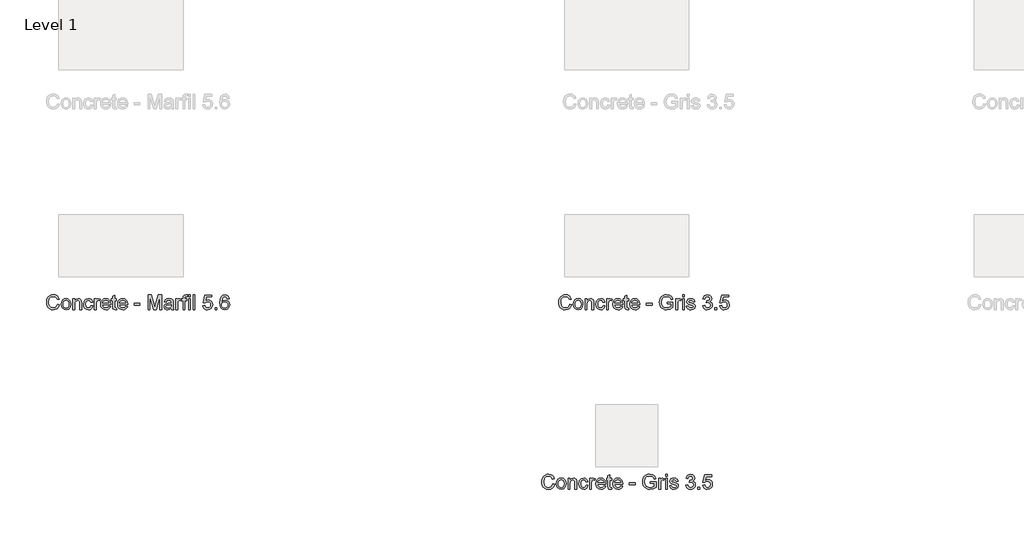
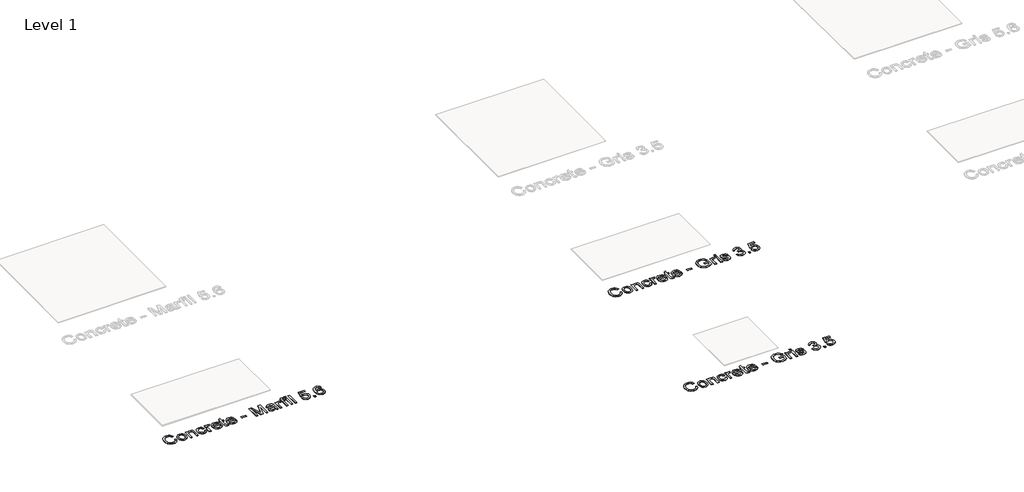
# One storey, part 43 of 80: 3 proxies.
"""IFC4 building model written with IfcOpenShell, lengths in millimetres."""

from ifc_helpers import new_model, si_unit, origin, origin_with_axes, place, context, project, spatial, polyline, outline, extrude, element, save

model = new_model("IFC4")

# Units and contexts
model_context = context("Model", 3, world=origin())
ifc_project = project(units=[si_unit("LENGTHUNIT", "METRE", prefix="MILLI")], contexts=[model_context])

# Site, building, storey
site = spatial("IfcSite", under=ifc_project)
building = spatial("IfcBuilding", under=site)
storey = spatial("IfcBuildingStorey", under=building, Name="Level 1", Elevation=0.0)

# Proxies
placement = place(None, origin())
element("IfcBuildingElementProxy", 1, Name="24\" Arial", ObjectType="24\" Arial", at=placement, inside=storey, context=model_context, shape_type="SweptSolid", body=[
    extrude(outline(polyline([(-23094.8409785, 7132.3794502), (-23080.0717477, 7128.5717579), (-23086.8866516, 7111.3614213), (-23097.5813631, 7098.788104), (-23111.6294401, 7091.0969982), (-23128.5044401, 7088.5332963), (-23145.6354497, 7090.4732002), (-23159.240017, 7096.2929117), (-23169.6679016, 7105.7905079), (-23177.2688631, 7118.7640655), (-23181.9094881, 7134.0164694), (-23183.4563631, 7150.350604), (-23181.7075651, 7167.5789694), (-23176.4611708, 7182.4563732), (-23167.9912189, 7194.5104598), (-23156.5717477, 7203.2688732), (-23143.0284785, 7208.6018059), (-23128.1871324, 7210.3794502), (-23111.9936227, 7208.0789694), (-23098.6054016, 7201.1775271), (-23088.4407381, 7190.100604), (-23081.9179016, 7175.2736809), (-23096.6871324, 7171.7544502), (-23101.8073247, 7182.5248829), (-23108.802517, 7189.913104), (-23117.7592477, 7194.1859405), (-23128.7640554, 7195.6102194), (-23141.4491516, 7194.0308925), (-23151.8698247, 7189.2929117), (-23159.7772766, 7181.8938732), (-23164.9227093, 7172.3313732), (-23168.6871324, 7150.3794502), (-23164.2304016, 7124.9371425), (-23158.5332862, 7115.4359405), (-23150.3554016, 7108.6823348), (-23129.9755939, 7103.3025271), (-23117.6474689, 7105.1342579), (-23107.3746324, 7110.6294502), (-23099.6186227, 7119.7304117), (-23094.8409785, 7132.3794502)])), origin_with_axes(), (0.0, 0.0, 1.0), 2.0),
    extrude(outline(polyline([(-23065.302517, 7133.7640655), (-23062.1078054, 7154.6847386), (-23052.5236708, 7169.3890655), (-23040.6823247, 7176.5933925), (-23026.5044401, 7178.9948348), (-23010.9888151, 7176.0705559), (-22998.5957862, 7167.2977194), (-22990.4719881, 7153.3686329), (-22987.7640554, 7134.975604), (-22992.552517, 7108.6967579), (-23006.4996324, 7093.8265655), (-23026.5044401, 7088.5332963), (-23042.2075651, 7091.4467579), (-23054.5861708, 7100.1871425), (-23062.6234304, 7114.4082963), (-23065.302517, 7133.7640655)]), holes=[polyline([(-23050.5332862, 7133.7929117), (-23048.8241516, 7120.4263252), (-23043.6967477, 7110.9034886), (-23035.9804016, 7105.2027675), (-23026.5044401, 7103.3025271), (-23017.0717477, 7105.2135848), (-23009.3698247, 7110.9467579), (-23004.2424208, 7120.5957963), (-23002.5332862, 7134.2544502), (-23004.2532381, 7147.2316136), (-23009.4130939, 7156.6246425), (-23017.1258343, 7162.3253636), (-23026.5044401, 7164.225604), (-23035.9804016, 7162.3325752), (-23043.6967477, 7156.6534886), (-23048.8241516, 7147.1522867), (-23050.5332862, 7133.7929117)])]), origin_with_axes(), (0.0, 0.0, 1.0), 2.0),
    extrude(outline(polyline([(-22971.1486708, 7090.3794502), (-22971.1486708, 7177.1486809), (-22956.3794401, 7177.1486809), (-22956.3794401, 7165.0332963), (-22945.0861708, 7175.5044502), (-22929.6679016, 7178.9948348), (-22915.7207862, 7176.1823348), (-22906.2015554, 7168.7977194), (-22901.7736708, 7157.9371425), (-22900.9948247, 7143.6582963), (-22900.9948247, 7090.3794502), (-22915.7640554, 7090.3794502), (-22915.7640554, 7141.6679117), (-22917.4659785, 7154.7352194), (-22923.4804016, 7161.6438732), (-22933.6198247, 7164.225604), (-22949.6438631, 7158.4275271), (-22954.6955458, 7150.0260848), (-22956.3794401, 7136.4179117), (-22956.3794401, 7090.3794502), (-22971.1486708, 7090.3794502)])), origin_with_axes(), (0.0, 0.0, 1.0), 2.0),
    extrude(outline(polyline([(-22825.302517, 7121.7640655), (-22810.5332862, 7119.9179117), (-22814.6510747, 7106.7820944), (-22822.3890554, 7096.8554117), (-22833.0188631, 7090.6138252), (-22845.8121324, 7088.5332963), (-22861.5224689, 7091.4359405), (-22873.8073247, 7100.1438732), (-22881.7364112, 7114.2748829), (-22884.3794401, 7133.4467579), (-22879.865017, 7157.9804117), (-22874.1679016, 7167.178729), (-22866.1054016, 7173.7448348), (-22846.0140554, 7178.9948348), (-22833.5344881, 7177.1919502), (-22823.5573247, 7171.7832963), (-22816.3998727, 7163.0573348), (-22812.3794401, 7151.3025271), (-22827.1486708, 7149.4563732), (-22833.9996324, 7160.5188732), (-22845.8986708, 7164.225604), (-22855.443142, 7162.4010848), (-22863.0188631, 7156.9275271), (-22867.9623727, 7147.5092579), (-22869.6102093, 7133.850604), (-22867.9984304, 7120.0080559), (-22863.1630939, 7110.5573348), (-22855.724392, 7105.116229), (-22846.302517, 7103.3025271), (-22832.3842477, 7107.8313732), (-22825.302517, 7121.7640655)])), origin_with_axes(), (0.0, 0.0, 1.0), 2.0),
    extrude(outline(polyline([(-22797.6102093, 7090.3794502), (-22797.6102093, 7177.1486809), (-22784.6871324, 7177.1486809), (-22784.6871324, 7164.3121425), (-22775.5140554, 7176.1390655), (-22766.2832862, 7178.9948348), (-22751.4563631, 7174.4371425), (-22756.3890554, 7161.1967579), (-22766.7736708, 7164.225604), (-22775.1246324, 7161.3121425), (-22780.4467477, 7153.2352194), (-22782.8409785, 7135.9852194), (-22782.8409785, 7090.3794502), (-22797.6102093, 7090.3794502)])), origin_with_axes(), (0.0, 0.0, 1.0), 2.0),
    extrude(outline(polyline([(-22681.4755939, 7116.225604), (-22666.9948247, 7114.3794502), (-22672.2123727, 7103.4683925), (-22680.5380939, 7095.3121425), (-22691.7844881, 7090.2280079), (-22705.7640554, 7088.5332963), (-22723.0933824, 7091.4575752), (-22736.427517, 7100.2304117), (-22744.9299208, 7114.2820944), (-22747.7640554, 7133.0429117), (-22744.9010747, 7152.4347386), (-22736.3121324, 7166.9371425), (-22723.1582862, 7175.9804117), (-22706.6005939, 7178.9948348), (-22690.5585266, 7175.9876232), (-22677.740017, 7166.9659886), (-22669.3349689, 7152.4924309), (-22666.5332862, 7133.1294502), (-22666.6198247, 7129.1486809), (-22732.9948247, 7129.1486809), (-22730.4383343, 7118.0933925), (-22724.4996324, 7109.9659886), (-22715.9287189, 7104.9683925), (-22705.4755939, 7103.3025271), (-22690.9948247, 7106.3890655), (-22681.4755939, 7116.225604)]), holes=[polyline([(-22732.9948247, 7143.9179117), (-22681.302517, 7143.9179117), (-22687.2159785, 7157.3025271), (-22695.8265554, 7162.4948348), (-22706.6582862, 7164.225604), (-22724.8457862, 7158.7015655), (-22730.568142, 7152.2436329), (-22732.9948247, 7143.9179117)])]), origin_with_axes(), (0.0, 0.0, 1.0), 2.0),
    extrude(outline(polyline([(-22620.3794401, 7102.6967579), (-22618.5332862, 7089.9467579), (-22629.5813631, 7088.5332963), (-22641.9563631, 7090.9852194), (-22648.1294401, 7097.4179117), (-22649.9179016, 7114.1775271), (-22649.9179016, 7162.3794502), (-22660.9948247, 7162.3794502), (-22660.9948247, 7177.1486809), (-22649.9179016, 7177.1486809), (-22649.9179016, 7198.2352194), (-22635.1486708, 7206.9179117), (-22635.1486708, 7177.1486809), (-22620.3794401, 7177.1486809), (-22620.3794401, 7162.3794502), (-22635.1486708, 7162.3794502), (-22635.1486708, 7114.6102194), (-22634.3698247, 7106.9948348), (-22631.8457862, 7104.2977194), (-22626.8121324, 7103.3025271), (-22620.3794401, 7102.6967579)])), origin_with_axes(), (0.0, 0.0, 1.0), 2.0),
    extrude(outline(polyline([(-22544.8602093, 7116.225604), (-22530.3794401, 7114.3794502), (-22535.5969881, 7103.4683925), (-22543.9227093, 7095.3121425), (-22555.1691035, 7090.2280079), (-22569.1486708, 7088.5332963), (-22586.4779977, 7091.4575752), (-22599.8121324, 7100.2304117), (-22608.3145362, 7114.2820944), (-22611.1486708, 7133.0429117), (-22608.2856901, 7152.4347386), (-22599.6967477, 7166.9371425), (-22586.5429016, 7175.9804117), (-22569.9852093, 7178.9948348), (-22553.943142, 7175.9876232), (-22541.1246324, 7166.9659886), (-22532.7195843, 7152.4924309), (-22529.9179016, 7133.1294502), (-22530.0044401, 7129.1486809), (-22596.3794401, 7129.1486809), (-22593.8229497, 7118.0933925), (-22587.8842477, 7109.9659886), (-22579.3133343, 7104.9683925), (-22568.8602093, 7103.3025271), (-22554.3794401, 7106.3890655), (-22544.8602093, 7116.225604)]), holes=[polyline([(-22596.3794401, 7143.9179117), (-22544.6871324, 7143.9179117), (-22550.6005939, 7157.3025271), (-22559.2111708, 7162.4948348), (-22570.0429016, 7164.225604), (-22588.2304016, 7158.7015655), (-22593.9527574, 7152.2436329), (-22596.3794401, 7143.9179117)])]), origin_with_axes(), (0.0, 0.0, 1.0), 2.0),
    extrude(outline(polyline([(-22476.3794401, 7125.4563732), (-22476.3794401, 7140.225604), (-22430.2255939, 7140.225604), (-22430.2255939, 7125.4563732), (-22476.3794401, 7125.4563732)])), origin_with_axes(), (0.0, 0.0, 1.0), 2.0),
    extrude(outline(polyline([(-22365.6102093, 7090.3794502), (-22365.6102093, 7208.5332963), (-22340.1967477, 7208.5332963), (-22316.0236708, 7125.2544502), (-22311.1486708, 7107.8602194), (-22305.8698247, 7126.6967579), (-22282.1005939, 7208.5332963), (-22256.6871324, 7208.5332963), (-22256.6871324, 7090.3794502), (-22271.4563631, 7090.3794502), (-22271.4563631, 7193.7640655), (-22301.1390554, 7090.3794502), (-22321.1582862, 7090.3794502), (-22350.8409785, 7193.7640655), (-22350.8409785, 7090.3794502), (-22365.6102093, 7090.3794502)])), origin_with_axes(), (0.0, 0.0, 1.0), 2.0),
    extrude(outline(polyline([(-22177.302517, 7101.4563732), (-22191.6246324, 7091.4467579), (-22207.4467477, 7088.5332963), (-22219.7892958, 7090.2857002), (-22228.8938631, 7095.5429117), (-22234.5080458, 7103.5260848), (-22236.3794401, 7113.4563732), (-22233.552517, 7125.1390655), (-22226.1246324, 7133.6198348), (-22215.7832862, 7138.4659886), (-22203.0044401, 7140.6871425), (-22177.3890554, 7145.7640655), (-22177.302517, 7149.0525271), (-22181.3698247, 7159.9563732), (-22197.6967477, 7164.225604), (-22212.6390554, 7161.3842579), (-22219.7640554, 7151.3025271), (-22234.5332862, 7153.1486809), (-22228.1438631, 7167.5717579), (-22215.2784785, 7176.0236809), (-22195.7929016, 7178.9948348), (-22177.8938631, 7176.3698348), (-22167.7832862, 7169.7784886), (-22163.2544401, 7159.7544502), (-22162.5332862, 7146.8313732), (-22162.5332862, 7128.4563732), (-22161.7832862, 7102.7977194), (-22158.8409785, 7090.3794502), (-22173.6102093, 7090.3794502), (-22177.302517, 7101.4563732)]), holes=[polyline([(-22177.302517, 7130.9948348), (-22201.1294401, 7126.4659886), (-22213.8361708, 7124.0717579), (-22219.5909785, 7120.1775271), (-22221.6102093, 7114.4948348), (-22217.2111708, 7106.5044502), (-22204.302517, 7103.3025271), (-22189.3602093, 7106.8361809), (-22179.7255939, 7115.3890655), (-22177.3890554, 7126.8121425), (-22177.302517, 7130.9948348)])]), origin_with_axes(), (0.0, 0.0, 1.0), 2.0),
    extrude(outline(polyline([(-22142.2255939, 7090.3794502), (-22142.2255939, 7177.1486809), (-22129.302517, 7177.1486809), (-22129.302517, 7164.3121425), (-22120.1294401, 7176.1390655), (-22110.8986708, 7178.9948348), (-22096.0717477, 7174.4371425), (-22101.0044401, 7161.1967579), (-22111.3890554, 7164.225604), (-22119.740017, 7161.3121425), (-22125.0621324, 7153.2352194), (-22127.4563631, 7135.9852194), (-22127.4563631, 7090.3794502), (-22142.2255939, 7090.3794502)])), origin_with_axes(), (0.0, 0.0, 1.0), 2.0),
    extrude(outline(polyline([(-22083.1486708, 7090.3794502), (-22083.1486708, 7162.3794502), (-22096.0717477, 7162.3794502), (-22096.0717477, 7177.1486809), (-22083.1486708, 7177.1486809), (-22083.1486708, 7185.8890655), (-22081.5909785, 7198.2063732), (-22074.0332862, 7207.0044502), (-22059.1486708, 7210.3794502), (-22045.677517, 7208.7640655), (-22047.8409785, 7194.9179117), (-22056.3505939, 7195.6102194), (-22065.6534785, 7193.1582963), (-22068.3794401, 7184.0140655), (-22068.3794401, 7177.1486809), (-22051.7640554, 7177.1486809), (-22051.7640554, 7162.3794502), (-22068.3794401, 7162.3794502), (-22068.3794401, 7090.3794502), (-22083.1486708, 7090.3794502)])), origin_with_axes(), (0.0, 0.0, 1.0), 2.0),
    extrude(outline(polyline([(-22038.8409785, 7090.3794502), (-22038.8409785, 7177.1486809), (-22024.0717477, 7177.1486809), (-22024.0717477, 7090.3794502), (-22038.8409785, 7090.3794502)])), origin_with_axes(), (0.0, 0.0, 1.0), 2.0),
    extrude(outline(polyline([(-22038.8409785, 7193.7640655), (-22038.8409785, 7208.5332963), (-22024.0717477, 7208.5332963), (-22024.0717477, 7193.7640655), (-22038.8409785, 7193.7640655)])), origin_with_axes(), (0.0, 0.0, 1.0), 2.0),
    extrude(outline(polyline([(-22001.9179016, 7090.3794502), (-22001.9179016, 7208.5332963), (-21987.1486708, 7208.5332963), (-21987.1486708, 7090.3794502), (-22001.9179016, 7090.3794502)])), origin_with_axes(), (0.0, 0.0, 1.0), 2.0),
    extrude(outline(polyline([(-21922.5332862, 7121.7640655), (-21907.7640554, 7123.6102194), (-21900.3217477, 7108.3938732), (-21884.8890554, 7103.3025271), (-21874.302517, 7105.0729598), (-21866.3698247, 7110.3842579), (-21861.4154977, 7118.6234405), (-21859.7640554, 7129.1775271), (-21861.3109304, 7139.1150271), (-21865.9515554, 7146.7159886), (-21873.7219881, 7151.5405079), (-21884.6582862, 7153.1486809), (-21897.6246324, 7150.5813732), (-21905.9179016, 7143.9179117), (-21920.6871324, 7145.7640655), (-21907.7640554, 7206.6871425), (-21850.5332862, 7206.6871425), (-21850.5332862, 7191.9179117), (-21895.8217477, 7191.9179117), (-21902.1390554, 7159.3794502), (-21891.5885747, 7165.7832963), (-21880.5332862, 7167.9179117), (-21866.7340074, 7165.2712771), (-21855.2784785, 7157.3313732), (-21847.5657381, 7145.2304117), (-21844.9948247, 7130.100604), (-21847.3097285, 7115.3313732), (-21854.2544401, 7102.6967579), (-21867.552517, 7092.0741617), (-21884.9467477, 7088.5332963), (-21899.4527574, 7090.8085367), (-21911.0092477, 7097.6342579), (-21918.9311227, 7108.2171905), (-21922.5332862, 7121.7640655)])), origin_with_axes(), (0.0, 0.0, 1.0), 2.0),
    extrude(outline(polyline([(-21824.6871324, 7090.3794502), (-21824.6871324, 7105.1486809), (-21809.9179016, 7105.1486809), (-21809.9179016, 7090.3794502), (-21824.6871324, 7090.3794502)])), origin_with_axes(), (0.0, 0.0, 1.0), 2.0),
    extrude(outline(polyline([(-21710.2255939, 7177.1486809), (-21724.9948247, 7175.3025271), (-21730.5909785, 7187.6198348), (-21737.2904977, 7192.2280079), (-21745.3890554, 7193.7640655), (-21758.7159785, 7190.1871425), (-21768.7977093, 7176.7592579), (-21772.9948247, 7150.4371425), (-21759.9707862, 7162.2207963), (-21743.8313631, 7166.0717579), (-21730.1871324, 7163.4395463), (-21718.7352093, 7155.5429117), (-21710.9683824, 7143.4780079), (-21708.3794401, 7128.3409886), (-21713.2544401, 7107.9611809), (-21726.6679016, 7093.538104), (-21746.0236708, 7088.5332963), (-21762.7796804, 7091.850604), (-21776.1246324, 7101.8025271), (-21784.8541997, 7119.3698348), (-21787.7640554, 7145.5332963), (-21784.5332862, 7174.9491617), (-21774.8409785, 7195.0621425), (-21761.6078054, 7205.1655079), (-21744.4659785, 7208.5332963), (-21731.5068439, 7206.4491617), (-21721.1294401, 7200.1967579), (-21713.8602093, 7190.2664694), (-21710.2255939, 7177.1486809)]), holes=[polyline([(-21772.9948247, 7128.5717579), (-21769.5765554, 7115.7784886), (-21760.490017, 7106.4900271), (-21747.177517, 7103.3025271), (-21737.4311227, 7104.9539694), (-21729.7688631, 7109.9082963), (-21724.8037189, 7117.6967579), (-21723.1486708, 7127.850604), (-21724.7820843, 7137.5969982), (-21729.6823247, 7145.0284886), (-21737.474392, 7149.7340175), (-21747.7832862, 7151.3025271), (-21757.5152574, 7149.7340175), (-21765.6534785, 7145.0284886), (-21771.1594881, 7137.7772867), (-21772.9948247, 7128.5717579)])]), origin_with_axes(), (0.0, 0.0, 1.0), 2.0),
])
element("IfcBuildingElementProxy", 2, Name="24\" Arial", ObjectType="24\" Arial", at=placement, inside=storey, context=model_context, shape_type="SweptSolid", body=[
    extrude(outline(polyline([(-19103.6914925, 5685.3136623), (-19088.9222617, 5681.50597), (-19095.7371656, 5664.2956335), (-19106.4318771, 5651.7223162), (-19120.4799541, 5644.0312104), (-19137.3549541, 5641.4675085), (-19154.4859637, 5643.4074123), (-19168.090531, 5649.2271239), (-19178.5184156, 5658.72472), (-19186.1193771, 5671.6982777), (-19190.7600021, 5686.9506816), (-19192.3068771, 5703.2848162), (-19190.5580791, 5720.5131816), (-19185.3116848, 5735.3905854), (-19176.8417329, 5747.444672), (-19165.4222617, 5756.2030854), (-19151.8789925, 5761.5360181), (-19137.0376464, 5763.3136623), (-19120.8441367, 5761.0131816), (-19107.4559156, 5754.1117393), (-19097.2912521, 5743.0348162), (-19090.7684156, 5728.2078931), (-19105.5376464, 5724.6886623), (-19110.6578387, 5735.459095), (-19117.653031, 5742.8473162), (-19126.6097617, 5747.1201527), (-19137.6145694, 5748.5444316), (-19150.2996656, 5746.9651047), (-19160.7203387, 5742.2271239), (-19168.6277906, 5734.8280854), (-19173.7732233, 5725.2655854), (-19177.5376464, 5703.3136623), (-19173.0809156, 5677.8713547), (-19167.3838002, 5668.3701527), (-19159.2059156, 5661.616547), (-19138.8261079, 5656.2367393), (-19126.4979829, 5658.06847), (-19116.2251464, 5663.5636623), (-19108.4691367, 5672.6646239), (-19103.6914925, 5685.3136623)])), origin_with_axes(), (0.0, 0.0, 1.0), 2.0),
    extrude(outline(polyline([(-19074.153031, 5686.6982777), (-19070.9583194, 5707.6189508), (-19061.3741848, 5722.3232777), (-19049.5328387, 5729.5276047), (-19035.3549541, 5731.929047), (-19019.8393291, 5729.0047681), (-19007.4463002, 5720.2319316), (-18999.3225021, 5706.302845), (-18996.6145694, 5687.9098162), (-19001.403031, 5661.63097), (-19015.3501464, 5646.7607777), (-19035.3549541, 5641.4675085), (-19051.0580791, 5644.38097), (-19063.4366848, 5653.1213547), (-19071.4739444, 5667.3425085), (-19074.153031, 5686.6982777)]), holes=[polyline([(-19059.3838002, 5686.7271239), (-19057.6746656, 5673.3605373), (-19052.5472617, 5663.8377008), (-19044.8309156, 5658.1369797), (-19035.3549541, 5656.2367393), (-19025.9222617, 5658.147797), (-19018.2203387, 5663.88097), (-19013.0929348, 5673.5300085), (-19011.3838002, 5687.1886623), (-19013.1037521, 5700.1658258), (-19018.2636079, 5709.5588547), (-19025.9763483, 5715.2595758), (-19035.3549541, 5717.1598162), (-19044.8309156, 5715.2667873), (-19052.5472617, 5709.5877008), (-19057.6746656, 5700.0864989), (-19059.3838002, 5686.7271239)])]), origin_with_axes(), (0.0, 0.0, 1.0), 2.0),
    extrude(outline(polyline([(-18979.9991848, 5643.3136623), (-18979.9991848, 5730.0828931), (-18965.2299541, 5730.0828931), (-18965.2299541, 5717.9675085), (-18953.9366848, 5728.4386623), (-18938.5184156, 5731.929047), (-18924.5713002, 5729.116547), (-18915.0520694, 5721.7319316), (-18910.6241848, 5710.8713547), (-18909.8453387, 5696.5925085), (-18909.8453387, 5643.3136623), (-18924.6145694, 5643.3136623), (-18924.6145694, 5694.6021239), (-18926.3164925, 5707.6694316), (-18932.3309156, 5714.5780854), (-18942.4703387, 5717.1598162), (-18958.4943771, 5711.3617393), (-18963.5460598, 5702.960297), (-18965.2299541, 5689.3521239), (-18965.2299541, 5643.3136623), (-18979.9991848, 5643.3136623)])), origin_with_axes(), (0.0, 0.0, 1.0), 2.0),
    extrude(outline(polyline([(-18834.153031, 5674.6982777), (-18819.3838002, 5672.8521239), (-18823.5015887, 5659.7163066), (-18831.2395694, 5649.7896239), (-18841.8693771, 5643.5480373), (-18854.6626464, 5641.4675085), (-18870.3729829, 5644.3701527), (-18882.6578387, 5653.0780854), (-18890.5869252, 5667.209095), (-18893.2299541, 5686.38097), (-18888.715531, 5710.9146239), (-18883.0184156, 5720.1129412), (-18874.9559156, 5726.679047), (-18854.8645694, 5731.929047), (-18842.3850021, 5730.1261623), (-18832.4078387, 5724.7175085), (-18825.2503867, 5715.991547), (-18821.2299541, 5704.2367393), (-18835.9991848, 5702.3905854), (-18842.8501464, 5713.4530854), (-18854.7491848, 5717.1598162), (-18864.293656, 5715.335297), (-18871.8693771, 5709.8617393), (-18876.8128867, 5700.44347), (-18878.4607233, 5686.7848162), (-18876.8489444, 5672.9422681), (-18872.0136079, 5663.491547), (-18864.574906, 5658.0504412), (-18855.153031, 5656.2367393), (-18841.2347617, 5660.7655854), (-18834.153031, 5674.6982777)])), origin_with_axes(), (0.0, 0.0, 1.0), 2.0),
    extrude(outline(polyline([(-18806.4607233, 5643.3136623), (-18806.4607233, 5730.0828931), (-18793.5376464, 5730.0828931), (-18793.5376464, 5717.2463547), (-18784.3645694, 5729.0732777), (-18775.1338002, 5731.929047), (-18760.3068771, 5727.3713547), (-18765.2395694, 5714.13097), (-18775.6241848, 5717.1598162), (-18783.9751464, 5714.2463547), (-18789.2972617, 5706.1694316), (-18791.6914925, 5688.9194316), (-18791.6914925, 5643.3136623), (-18806.4607233, 5643.3136623)])), origin_with_axes(), (0.0, 0.0, 1.0), 2.0),
    extrude(outline(polyline([(-18690.3261079, 5669.1598162), (-18675.8453387, 5667.3136623), (-18681.0628867, 5656.4026047), (-18689.3886079, 5648.2463547), (-18700.6350021, 5643.16222), (-18714.6145694, 5641.4675085), (-18731.9438964, 5644.3917873), (-18745.278031, 5653.1646239), (-18753.7804348, 5667.2163066), (-18756.6145694, 5685.9771239), (-18753.7515887, 5705.3689508), (-18745.1626464, 5719.8713547), (-18732.0088002, 5728.9146239), (-18715.4511079, 5731.929047), (-18699.4090406, 5728.9218354), (-18686.590531, 5719.9002008), (-18678.1854829, 5705.4266431), (-18675.3838002, 5686.0636623), (-18675.4703387, 5682.0828931), (-18741.8453387, 5682.0828931), (-18739.2888483, 5671.0276047), (-18733.3501464, 5662.9002008), (-18724.7792329, 5657.9026047), (-18714.3261079, 5656.2367393), (-18699.8453387, 5659.3232777), (-18690.3261079, 5669.1598162)]), holes=[polyline([(-18741.8453387, 5696.8521239), (-18690.153031, 5696.8521239), (-18696.0664925, 5710.2367393), (-18704.6770694, 5715.429047), (-18715.5088002, 5717.1598162), (-18733.6963002, 5711.6357777), (-18739.418656, 5705.177845), (-18741.8453387, 5696.8521239)])]), origin_with_axes(), (0.0, 0.0, 1.0), 2.0),
    extrude(outline(polyline([(-18629.2299541, 5655.63097), (-18627.3838002, 5642.88097), (-18638.4318771, 5641.4675085), (-18650.8068771, 5643.9194316), (-18656.9799541, 5650.3521239), (-18658.7684156, 5667.1117393), (-18658.7684156, 5715.3136623), (-18669.8453387, 5715.3136623), (-18669.8453387, 5730.0828931), (-18658.7684156, 5730.0828931), (-18658.7684156, 5751.1694316), (-18643.9991848, 5759.8521239), (-18643.9991848, 5730.0828931), (-18629.2299541, 5730.0828931), (-18629.2299541, 5715.3136623), (-18643.9991848, 5715.3136623), (-18643.9991848, 5667.5444316), (-18643.2203387, 5659.929047), (-18640.6963002, 5657.2319316), (-18635.6626464, 5656.2367393), (-18629.2299541, 5655.63097)])), origin_with_axes(), (0.0, 0.0, 1.0), 2.0),
    extrude(outline(polyline([(-18553.7107233, 5669.1598162), (-18539.2299541, 5667.3136623), (-18544.4475021, 5656.4026047), (-18552.7732233, 5648.2463547), (-18564.0196175, 5643.16222), (-18577.9991848, 5641.4675085), (-18595.3285117, 5644.3917873), (-18608.6626464, 5653.1646239), (-18617.1650502, 5667.2163066), (-18619.9991848, 5685.9771239), (-18617.1362041, 5705.3689508), (-18608.5472617, 5719.8713547), (-18595.3934156, 5728.9146239), (-18578.8357233, 5731.929047), (-18562.793656, 5728.9218354), (-18549.9751464, 5719.9002008), (-18541.5700983, 5705.4266431), (-18538.7684156, 5686.0636623), (-18538.8549541, 5682.0828931), (-18605.2299541, 5682.0828931), (-18602.6734637, 5671.0276047), (-18596.7347617, 5662.9002008), (-18588.1638483, 5657.9026047), (-18577.7107233, 5656.2367393), (-18563.2299541, 5659.3232777), (-18553.7107233, 5669.1598162)]), holes=[polyline([(-18605.2299541, 5696.8521239), (-18553.5376464, 5696.8521239), (-18559.4511079, 5710.2367393), (-18568.0616848, 5715.429047), (-18578.8934156, 5717.1598162), (-18597.0809156, 5711.6357777), (-18602.8032714, 5705.177845), (-18605.2299541, 5696.8521239)])]), origin_with_axes(), (0.0, 0.0, 1.0), 2.0),
    extrude(outline(polyline([(-18485.2299541, 5678.3905854), (-18485.2299541, 5693.1598162), (-18439.0761079, 5693.1598162), (-18439.0761079, 5678.3905854), (-18485.2299541, 5678.3905854)])), origin_with_axes(), (0.0, 0.0, 1.0), 2.0),
    extrude(outline(polyline([(-18319.0761079, 5689.4675085), (-18319.0761079, 5704.2367393), (-18271.0761079, 5704.2367393), (-18271.0761079, 5660.0732777), (-18294.7732233, 5646.1405854), (-18319.8261079, 5641.4675085), (-18336.3946175, 5643.3244797), (-18351.3693771, 5648.8953931), (-18363.809281, 5657.9855373), (-18372.7732233, 5670.4002008), (-18378.1926944, 5685.2920277), (-18379.9991848, 5701.8136623), (-18378.199906, 5718.4542873), (-18372.8020694, 5733.9338547), (-18364.0292329, 5746.9182297), (-18352.1049541, 5756.0732777), (-18337.5809156, 5761.5035662), (-18321.0088002, 5763.3136623), (-18297.903031, 5759.116547), (-18281.7059156, 5747.4338547), (-18272.778031, 5727.8905854), (-18286.3934156, 5724.054047), (-18293.1289925, 5737.7127008), (-18304.6386079, 5745.5877008), (-18321.2395694, 5748.5444316), (-18340.1482233, 5745.3569316), (-18353.0136079, 5736.991547), (-18360.6145694, 5725.6117393), (-18365.2299541, 5702.4194316), (-18363.8417329, 5688.2956335), (-18359.6770694, 5676.6742393), (-18352.8621656, 5667.6381816), (-18343.5232233, 5661.2703931), (-18321.0088002, 5656.2367393), (-18300.8020694, 5660.0300085), (-18285.8453387, 5668.1213547), (-18285.8453387, 5689.4675085), (-18319.0761079, 5689.4675085)])), origin_with_axes(), (0.0, 0.0, 1.0), 2.0),
    extrude(outline(polyline([(-18248.9222617, 5643.3136623), (-18248.9222617, 5730.0828931), (-18235.9991848, 5730.0828931), (-18235.9991848, 5717.2463547), (-18226.8261079, 5729.0732777), (-18217.5953387, 5731.929047), (-18202.7684156, 5727.3713547), (-18207.7011079, 5714.13097), (-18218.0857233, 5717.1598162), (-18226.4366848, 5714.2463547), (-18231.7588002, 5706.1694316), (-18234.153031, 5688.9194316), (-18234.153031, 5643.3136623), (-18248.9222617, 5643.3136623)])), origin_with_axes(), (0.0, 0.0, 1.0), 2.0),
    extrude(outline(polyline([(-18193.5376464, 5746.6982777), (-18193.5376464, 5761.4675085), (-18178.7684156, 5761.4675085), (-18178.7684156, 5746.6982777), (-18193.5376464, 5746.6982777)])), origin_with_axes(), (0.0, 0.0, 1.0), 2.0),
    extrude(outline(polyline([(-18193.5376464, 5643.3136623), (-18193.5376464, 5730.0828931), (-18178.7684156, 5730.0828931), (-18178.7684156, 5643.3136623), (-18193.5376464, 5643.3136623)])), origin_with_axes(), (0.0, 0.0, 1.0), 2.0),
    extrude(outline(polyline([(-18162.153031, 5669.1598162), (-18147.3838002, 5671.00597), (-18140.5472617, 5660.0444316), (-18124.8838002, 5656.2367393), (-18109.8261079, 5659.7271239), (-18104.9222617, 5667.9194316), (-18109.8549541, 5674.554047), (-18125.0568771, 5678.7655854), (-18147.2972617, 5685.991547), (-18157.0039925, 5694.429047), (-18160.3068771, 5706.3425085), (-18157.653031, 5717.3473162), (-18150.4126464, 5725.75597), (-18141.0232233, 5730.1261623), (-18128.3164925, 5731.929047), (-18110.3453387, 5729.0300085), (-18098.9222617, 5721.1838547), (-18093.8453387, 5707.929047), (-18108.6145694, 5706.0828931), (-18114.1674541, 5714.2319316), (-18127.1626464, 5717.1598162), (-18141.2972617, 5714.3617393), (-18145.5376464, 5707.8425085), (-18143.778031, 5703.5444316), (-18138.2684156, 5700.2848162), (-18125.5472617, 5697.1405854), (-18103.8693771, 5690.1886623), (-18093.8020694, 5682.3136623), (-18090.153031, 5669.4771239), (-18094.4366848, 5655.3425085), (-18106.7972617, 5645.0877008), (-18125.0857233, 5641.4675085), (-18139.9775502, 5643.2127008), (-18150.8453387, 5648.4482777), (-18158.1001464, 5657.116547), (-18162.153031, 5669.1598162)])), origin_with_axes(), (0.0, 0.0, 1.0), 2.0),
    extrude(outline(polyline([(-18031.0761079, 5674.6982777), (-18016.3068771, 5676.5444316), (-18008.1578387, 5660.9963547), (-17992.9126464, 5656.2367393), (-17982.7876464, 5657.8737585), (-17974.9703387, 5662.7848162), (-17969.9727425, 5670.1117393), (-17968.3068771, 5678.9963547), (-17969.9583194, 5687.4302489), (-17974.9126464, 5694.2703931), (-17982.4126464, 5698.802845), (-17991.7011079, 5700.3136623), (-18002.0568771, 5698.6982777), (-18000.4126464, 5713.4675085), (-17998.0472617, 5713.2944316), (-17981.2876464, 5717.5348162), (-17975.7059156, 5722.9146239), (-17973.8453387, 5730.5732777), (-17979.2395694, 5742.1261623), (-17993.1434156, 5746.6982777), (-18007.2203387, 5742.0828931), (-18014.4607233, 5728.2367393), (-18029.2299541, 5730.0828931), (-18024.8813964, 5743.3449123), (-18017.1434156, 5753.2463547), (-18006.5568771, 5759.41222), (-17993.6626464, 5761.4675085), (-17975.8501464, 5757.4146239), (-17963.3886079, 5746.3377008), (-17959.0761079, 5731.4386623), (-17963.1722617, 5717.8232777), (-17975.2876464, 5708.0444316), (-17966.0424541, 5704.3088547), (-17959.1914925, 5697.9482777), (-17954.9511079, 5689.3088547), (-17953.5376464, 5678.7367393), (-17956.3645694, 5664.3425085), (-17964.8453387, 5652.3136623), (-17977.6458194, 5644.179047), (-17993.4318771, 5641.4675085), (-18007.7107233, 5643.7824123), (-18019.3357233, 5650.7271239), (-18027.4198579, 5661.34972), (-18031.0761079, 5674.6982777)])), origin_with_axes(), (0.0, 0.0, 1.0), 2.0),
    extrude(outline(polyline([(-17933.2299541, 5643.3136623), (-17933.2299541, 5658.0828931), (-17918.4607233, 5658.0828931), (-17918.4607233, 5643.3136623), (-17933.2299541, 5643.3136623)])), origin_with_axes(), (0.0, 0.0, 1.0), 2.0),
    extrude(outline(polyline([(-17894.4607233, 5674.6982777), (-17879.6914925, 5676.5444316), (-17872.2491848, 5661.3280854), (-17856.8164925, 5656.2367393), (-17846.2299541, 5658.007172), (-17838.2972617, 5663.31847), (-17833.3429348, 5671.5576527), (-17831.6914925, 5682.1117393), (-17833.2383675, 5692.0492393), (-17837.8789925, 5699.6502008), (-17845.6494252, 5704.47472), (-17856.5857233, 5706.0828931), (-17869.5520694, 5703.5155854), (-17877.8453387, 5696.8521239), (-17892.6145694, 5698.6982777), (-17879.6914925, 5759.6213547), (-17822.4607233, 5759.6213547), (-17822.4607233, 5744.8521239), (-17867.7491848, 5744.8521239), (-17874.0664925, 5712.3136623), (-17863.5160117, 5718.7175085), (-17852.4607233, 5720.8521239), (-17838.6614444, 5718.2054893), (-17827.2059156, 5710.2655854), (-17819.4931752, 5698.1646239), (-17816.9222617, 5683.0348162), (-17819.2371656, 5668.2655854), (-17826.1818771, 5655.63097), (-17839.4799541, 5645.0083739), (-17856.8741848, 5641.4675085), (-17871.3801944, 5643.7427489), (-17882.9366848, 5650.56847), (-17890.8585598, 5661.1514027), (-17894.4607233, 5674.6982777)])), origin_with_axes(), (0.0, 0.0, 1.0), 2.0),
])
element("IfcBuildingElementProxy", 3, Name="24\" Arial", ObjectType="24\" Arial", at=placement, inside=storey, context=model_context, shape_type="SweptSolid", body=[
    extrude(outline(polyline([(-18967.0761079, 7132.3794502), (-18952.3068771, 7128.5717579), (-18959.121781, 7111.3614213), (-18969.8164925, 7098.788104), (-18983.8645694, 7091.0969982), (-19000.7395694, 7088.5332963), (-19017.8705791, 7090.4732002), (-19031.4751464, 7096.2929117), (-19041.903031, 7105.7905079), (-19049.5039925, 7118.7640655), (-19054.1446175, 7134.0164694), (-19055.6914925, 7150.350604), (-19053.9426944, 7167.5789694), (-19048.6963002, 7182.4563732), (-19040.2263483, 7194.5104598), (-19028.8068771, 7203.2688732), (-19015.2636079, 7208.6018059), (-19000.4222617, 7210.3794502), (-18984.2287521, 7208.0789694), (-18970.840531, 7201.1775271), (-18960.6758675, 7190.100604), (-18954.153031, 7175.2736809), (-18968.9222617, 7171.7544502), (-18974.0424541, 7182.5248829), (-18981.0376464, 7189.913104), (-18989.9943771, 7194.1859405), (-19000.9991848, 7195.6102194), (-19013.684281, 7194.0308925), (-19024.1049541, 7189.2929117), (-19032.012406, 7181.8938732), (-19037.1578387, 7172.3313732), (-19040.9222617, 7150.3794502), (-19036.465531, 7124.9371425), (-19030.7684156, 7115.4359405), (-19022.590531, 7108.6823348), (-19002.2107233, 7103.3025271), (-18989.8825983, 7105.1342579), (-18979.6097617, 7110.6294502), (-18971.8537521, 7119.7304117), (-18967.0761079, 7132.3794502)])), origin_with_axes(), (0.0, 0.0, 1.0), 2.0),
    extrude(outline(polyline([(-18937.5376464, 7133.7640655), (-18934.3429348, 7154.6847386), (-18924.7588002, 7169.3890655), (-18912.9174541, 7176.5933925), (-18898.7395694, 7178.9948348), (-18883.2239444, 7176.0705559), (-18870.8309156, 7167.2977194), (-18862.7071175, 7153.3686329), (-18859.9991848, 7134.975604), (-18864.7876464, 7108.6967579), (-18878.7347617, 7093.8265655), (-18898.7395694, 7088.5332963), (-18914.4426944, 7091.4467579), (-18926.8213002, 7100.1871425), (-18934.8585598, 7114.4082963), (-18937.5376464, 7133.7640655)]), holes=[polyline([(-18922.7684156, 7133.7929117), (-18921.059281, 7120.4263252), (-18915.9318771, 7110.9034886), (-18908.215531, 7105.2027675), (-18898.7395694, 7103.3025271), (-18889.3068771, 7105.2135848), (-18881.6049541, 7110.9467579), (-18876.4775502, 7120.5957963), (-18874.7684156, 7134.2544502), (-18876.4883675, 7147.2316136), (-18881.6482233, 7156.6246425), (-18889.3609637, 7162.3253636), (-18898.7395694, 7164.225604), (-18908.215531, 7162.3325752), (-18915.9318771, 7156.6534886), (-18921.059281, 7147.1522867), (-18922.7684156, 7133.7929117)])]), origin_with_axes(), (0.0, 0.0, 1.0), 2.0),
    extrude(outline(polyline([(-18843.3838002, 7090.3794502), (-18843.3838002, 7177.1486809), (-18828.6145694, 7177.1486809), (-18828.6145694, 7165.0332963), (-18817.3213002, 7175.5044502), (-18801.903031, 7178.9948348), (-18787.9559156, 7176.1823348), (-18778.4366848, 7168.7977194), (-18774.0088002, 7157.9371425), (-18773.2299541, 7143.6582963), (-18773.2299541, 7090.3794502), (-18787.9991848, 7090.3794502), (-18787.9991848, 7141.6679117), (-18789.7011079, 7154.7352194), (-18795.715531, 7161.6438732), (-18805.8549541, 7164.225604), (-18821.8789925, 7158.4275271), (-18826.9306752, 7150.0260848), (-18828.6145694, 7136.4179117), (-18828.6145694, 7090.3794502), (-18843.3838002, 7090.3794502)])), origin_with_axes(), (0.0, 0.0, 1.0), 2.0),
    extrude(outline(polyline([(-18697.5376464, 7121.7640655), (-18682.7684156, 7119.9179117), (-18686.8862041, 7106.7820944), (-18694.6241848, 7096.8554117), (-18705.2539925, 7090.6138252), (-18718.0472617, 7088.5332963), (-18733.7575983, 7091.4359405), (-18746.0424541, 7100.1438732), (-18753.9715406, 7114.2748829), (-18756.6145694, 7133.4467579), (-18752.1001464, 7157.9804117), (-18746.403031, 7167.178729), (-18738.340531, 7173.7448348), (-18718.2491848, 7178.9948348), (-18705.7696175, 7177.1919502), (-18695.7924541, 7171.7832963), (-18688.6350021, 7163.0573348), (-18684.6145694, 7151.3025271), (-18699.3838002, 7149.4563732), (-18706.2347617, 7160.5188732), (-18718.1338002, 7164.225604), (-18727.6782714, 7162.4010848), (-18735.2539925, 7156.9275271), (-18740.1975021, 7147.5092579), (-18741.8453387, 7133.850604), (-18740.2335598, 7120.0080559), (-18735.3982233, 7110.5573348), (-18727.9595214, 7105.116229), (-18718.5376464, 7103.3025271), (-18704.6193771, 7107.8313732), (-18697.5376464, 7121.7640655)])), origin_with_axes(), (0.0, 0.0, 1.0), 2.0),
    extrude(outline(polyline([(-18669.8453387, 7090.3794502), (-18669.8453387, 7177.1486809), (-18656.9222617, 7177.1486809), (-18656.9222617, 7164.3121425), (-18647.7491848, 7176.1390655), (-18638.5184156, 7178.9948348), (-18623.6914925, 7174.4371425), (-18628.6241848, 7161.1967579), (-18639.0088002, 7164.225604), (-18647.3597617, 7161.3121425), (-18652.6818771, 7153.2352194), (-18655.0761079, 7135.9852194), (-18655.0761079, 7090.3794502), (-18669.8453387, 7090.3794502)])), origin_with_axes(), (0.0, 0.0, 1.0), 2.0),
    extrude(outline(polyline([(-18553.7107233, 7116.225604), (-18539.2299541, 7114.3794502), (-18544.4475021, 7103.4683925), (-18552.7732233, 7095.3121425), (-18564.0196175, 7090.2280079), (-18577.9991848, 7088.5332963), (-18595.3285117, 7091.4575752), (-18608.6626464, 7100.2304117), (-18617.1650502, 7114.2820944), (-18619.9991848, 7133.0429117), (-18617.1362041, 7152.4347386), (-18608.5472617, 7166.9371425), (-18595.3934156, 7175.9804117), (-18578.8357233, 7178.9948348), (-18562.793656, 7175.9876232), (-18549.9751464, 7166.9659886), (-18541.5700983, 7152.4924309), (-18538.7684156, 7133.1294502), (-18538.8549541, 7129.1486809), (-18605.2299541, 7129.1486809), (-18602.6734637, 7118.0933925), (-18596.7347617, 7109.9659886), (-18588.1638483, 7104.9683925), (-18577.7107233, 7103.3025271), (-18563.2299541, 7106.3890655), (-18553.7107233, 7116.225604)]), holes=[polyline([(-18605.2299541, 7143.9179117), (-18553.5376464, 7143.9179117), (-18559.4511079, 7157.3025271), (-18568.0616848, 7162.4948348), (-18578.8934156, 7164.225604), (-18597.0809156, 7158.7015655), (-18602.8032714, 7152.2436329), (-18605.2299541, 7143.9179117)])]), origin_with_axes(), (0.0, 0.0, 1.0), 2.0),
    extrude(outline(polyline([(-18492.6145694, 7102.6967579), (-18490.7684156, 7089.9467579), (-18501.8164925, 7088.5332963), (-18514.1914925, 7090.9852194), (-18520.3645694, 7097.4179117), (-18522.153031, 7114.1775271), (-18522.153031, 7162.3794502), (-18533.2299541, 7162.3794502), (-18533.2299541, 7177.1486809), (-18522.153031, 7177.1486809), (-18522.153031, 7198.2352194), (-18507.3838002, 7206.9179117), (-18507.3838002, 7177.1486809), (-18492.6145694, 7177.1486809), (-18492.6145694, 7162.3794502), (-18507.3838002, 7162.3794502), (-18507.3838002, 7114.6102194), (-18506.6049541, 7106.9948348), (-18504.0809156, 7104.2977194), (-18499.0472617, 7103.3025271), (-18492.6145694, 7102.6967579)])), origin_with_axes(), (0.0, 0.0, 1.0), 2.0),
    extrude(outline(polyline([(-18417.0953387, 7116.225604), (-18402.6145694, 7114.3794502), (-18407.8321175, 7103.4683925), (-18416.1578387, 7095.3121425), (-18427.4042329, 7090.2280079), (-18441.3838002, 7088.5332963), (-18458.7131271, 7091.4575752), (-18472.0472617, 7100.2304117), (-18480.5496656, 7114.2820944), (-18483.3838002, 7133.0429117), (-18480.5208194, 7152.4347386), (-18471.9318771, 7166.9371425), (-18458.778031, 7175.9804117), (-18442.2203387, 7178.9948348), (-18426.1782714, 7175.9876232), (-18413.3597617, 7166.9659886), (-18404.9547137, 7152.4924309), (-18402.153031, 7133.1294502), (-18402.2395694, 7129.1486809), (-18468.6145694, 7129.1486809), (-18466.0580791, 7118.0933925), (-18460.1193771, 7109.9659886), (-18451.5484637, 7104.9683925), (-18441.0953387, 7103.3025271), (-18426.6145694, 7106.3890655), (-18417.0953387, 7116.225604)]), holes=[polyline([(-18468.6145694, 7143.9179117), (-18416.9222617, 7143.9179117), (-18422.8357233, 7157.3025271), (-18431.4463002, 7162.4948348), (-18442.278031, 7164.225604), (-18460.465531, 7158.7015655), (-18466.1878867, 7152.2436329), (-18468.6145694, 7143.9179117)])]), origin_with_axes(), (0.0, 0.0, 1.0), 2.0),
    extrude(outline(polyline([(-18348.6145694, 7125.4563732), (-18348.6145694, 7140.225604), (-18302.4607233, 7140.225604), (-18302.4607233, 7125.4563732), (-18348.6145694, 7125.4563732)])), origin_with_axes(), (0.0, 0.0, 1.0), 2.0),
    extrude(outline(polyline([(-18182.4607233, 7136.5332963), (-18182.4607233, 7151.3025271), (-18134.4607233, 7151.3025271), (-18134.4607233, 7107.1390655), (-18158.1578387, 7093.2063732), (-18183.2107233, 7088.5332963), (-18199.7792329, 7090.3902675), (-18214.7539925, 7095.9611809), (-18227.1938964, 7105.0513252), (-18236.1578387, 7117.4659886), (-18241.5773098, 7132.3578155), (-18243.3838002, 7148.8794502), (-18241.5845214, 7165.5200752), (-18236.1866848, 7180.9996425), (-18227.4138483, 7193.9840175), (-18215.4895694, 7203.1390655), (-18200.965531, 7208.569354), (-18184.3934156, 7210.3794502), (-18161.2876464, 7206.1823348), (-18145.090531, 7194.4996425), (-18136.1626464, 7174.9563732), (-18149.778031, 7171.1198348), (-18156.5136079, 7184.7784886), (-18168.0232233, 7192.6534886), (-18184.6241848, 7195.6102194), (-18203.5328387, 7192.4227194), (-18216.3982233, 7184.0573348), (-18223.9991848, 7172.6775271), (-18228.6145694, 7149.4852194), (-18227.2263483, 7135.3614213), (-18223.0616848, 7123.7400271), (-18216.246781, 7114.7039694), (-18206.9078387, 7108.3361809), (-18184.3934156, 7103.3025271), (-18164.1866848, 7107.0957963), (-18149.2299541, 7115.1871425), (-18149.2299541, 7136.5332963), (-18182.4607233, 7136.5332963)])), origin_with_axes(), (0.0, 0.0, 1.0), 2.0),
    extrude(outline(polyline([(-18112.3068771, 7090.3794502), (-18112.3068771, 7177.1486809), (-18099.3838002, 7177.1486809), (-18099.3838002, 7164.3121425), (-18090.2107233, 7176.1390655), (-18080.9799541, 7178.9948348), (-18066.153031, 7174.4371425), (-18071.0857233, 7161.1967579), (-18081.4703387, 7164.225604), (-18089.8213002, 7161.3121425), (-18095.1434156, 7153.2352194), (-18097.5376464, 7135.9852194), (-18097.5376464, 7090.3794502), (-18112.3068771, 7090.3794502)])), origin_with_axes(), (0.0, 0.0, 1.0), 2.0),
    extrude(outline(polyline([(-18056.9222617, 7193.7640655), (-18056.9222617, 7208.5332963), (-18042.153031, 7208.5332963), (-18042.153031, 7193.7640655), (-18056.9222617, 7193.7640655)])), origin_with_axes(), (0.0, 0.0, 1.0), 2.0),
    extrude(outline(polyline([(-18056.9222617, 7090.3794502), (-18056.9222617, 7177.1486809), (-18042.153031, 7177.1486809), (-18042.153031, 7090.3794502), (-18056.9222617, 7090.3794502)])), origin_with_axes(), (0.0, 0.0, 1.0), 2.0),
    extrude(outline(polyline([(-18025.5376464, 7116.225604), (-18010.7684156, 7118.0717579), (-18003.9318771, 7107.1102194), (-17988.2684156, 7103.3025271), (-17973.2107233, 7106.7929117), (-17968.3068771, 7114.9852194), (-17973.2395694, 7121.6198348), (-17988.4414925, 7125.8313732), (-18010.6818771, 7133.0573348), (-18020.3886079, 7141.4948348), (-18023.6914925, 7153.4082963), (-18021.0376464, 7164.413104), (-18013.7972617, 7172.8217579), (-18004.4078387, 7177.1919502), (-17991.7011079, 7178.9948348), (-17973.7299541, 7176.0957963), (-17962.3068771, 7168.2496425), (-17957.2299541, 7154.9948348), (-17971.9991848, 7153.1486809), (-17977.5520694, 7161.2977194), (-17990.5472617, 7164.225604), (-18004.6818771, 7161.4275271), (-18008.9222617, 7154.9082963), (-18007.1626464, 7150.6102194), (-18001.653031, 7147.350604), (-17988.9318771, 7144.2063732), (-17967.2539925, 7137.2544502), (-17957.1866848, 7129.3794502), (-17953.5376464, 7116.5429117), (-17957.8213002, 7102.4082963), (-17970.1818771, 7092.1534886), (-17988.4703387, 7088.5332963), (-18003.3621656, 7090.2784886), (-18014.2299541, 7095.5140655), (-18021.4847617, 7104.1823348), (-18025.5376464, 7116.225604)])), origin_with_axes(), (0.0, 0.0, 1.0), 2.0),
    extrude(outline(polyline([(-17894.4607233, 7121.7640655), (-17879.6914925, 7123.6102194), (-17871.5424541, 7108.0621425), (-17856.2972617, 7103.3025271), (-17846.1722617, 7104.9395463), (-17838.3549541, 7109.850604), (-17833.3573579, 7117.1775271), (-17831.6914925, 7126.0621425), (-17833.3429348, 7134.4960367), (-17838.2972617, 7141.3361809), (-17845.7972617, 7145.8686329), (-17855.0857233, 7147.3794502), (-17865.4414925, 7145.7640655), (-17863.7972617, 7160.5332963), (-17861.4318771, 7160.3602194), (-17844.6722617, 7164.600604), (-17839.090531, 7169.9804117), (-17837.2299541, 7177.6390655), (-17842.6241848, 7189.1919502), (-17856.528031, 7193.7640655), (-17870.6049541, 7189.1486809), (-17877.8453387, 7175.3025271), (-17892.6145694, 7177.1486809), (-17888.2660117, 7190.4107002), (-17880.528031, 7200.3121425), (-17869.9414925, 7206.4780079), (-17857.0472617, 7208.5332963), (-17839.2347617, 7204.4804117), (-17826.7732233, 7193.4034886), (-17822.4607233, 7178.5044502), (-17826.5568771, 7164.8890655), (-17838.6722617, 7155.1102194), (-17829.4270694, 7151.3746425), (-17822.5761079, 7145.0140655), (-17818.3357233, 7136.3746425), (-17816.9222617, 7125.8025271), (-17819.7491848, 7111.4082963), (-17828.2299541, 7099.3794502), (-17841.0304348, 7091.2448348), (-17856.8164925, 7088.5332963), (-17871.0953387, 7090.8482002), (-17882.7203387, 7097.7929117), (-17890.8044733, 7108.4155079), (-17894.4607233, 7121.7640655)])), origin_with_axes(), (0.0, 0.0, 1.0), 2.0),
    extrude(outline(polyline([(-17796.6145694, 7090.3794502), (-17796.6145694, 7105.1486809), (-17781.8453387, 7105.1486809), (-17781.8453387, 7090.3794502), (-17796.6145694, 7090.3794502)])), origin_with_axes(), (0.0, 0.0, 1.0), 2.0),
    extrude(outline(polyline([(-17757.8453387, 7121.7640655), (-17743.0761079, 7123.6102194), (-17735.6338002, 7108.3938732), (-17720.2011079, 7103.3025271), (-17709.6145694, 7105.0729598), (-17701.6818771, 7110.3842579), (-17696.7275502, 7118.6234405), (-17695.0761079, 7129.1775271), (-17696.6229829, 7139.1150271), (-17701.2636079, 7146.7159886), (-17709.0340406, 7151.5405079), (-17719.9703387, 7153.1486809), (-17732.9366848, 7150.5813732), (-17741.2299541, 7143.9179117), (-17755.9991848, 7145.7640655), (-17743.0761079, 7206.6871425), (-17685.8453387, 7206.6871425), (-17685.8453387, 7191.9179117), (-17731.1338002, 7191.9179117), (-17737.4511079, 7159.3794502), (-17726.9006271, 7165.7832963), (-17715.8453387, 7167.9179117), (-17702.0460598, 7165.2712771), (-17690.590531, 7157.3313732), (-17682.8777906, 7145.2304117), (-17680.3068771, 7130.100604), (-17682.621781, 7115.3313732), (-17689.5664925, 7102.6967579), (-17702.8645694, 7092.0741617), (-17720.2588002, 7088.5332963), (-17734.7648098, 7090.8085367), (-17746.3213002, 7097.6342579), (-17754.2431752, 7108.2171905), (-17757.8453387, 7121.7640655)])), origin_with_axes(), (0.0, 0.0, 1.0), 2.0),
])

save(model, "model.ifc")
